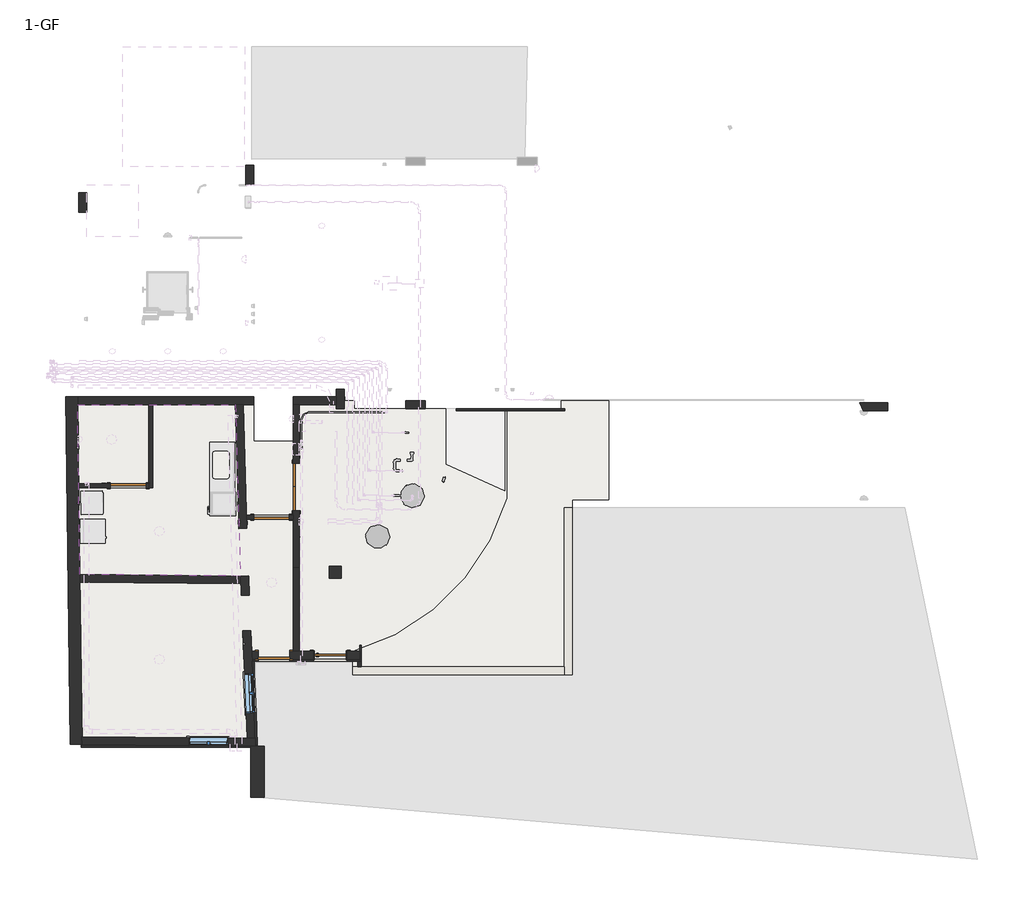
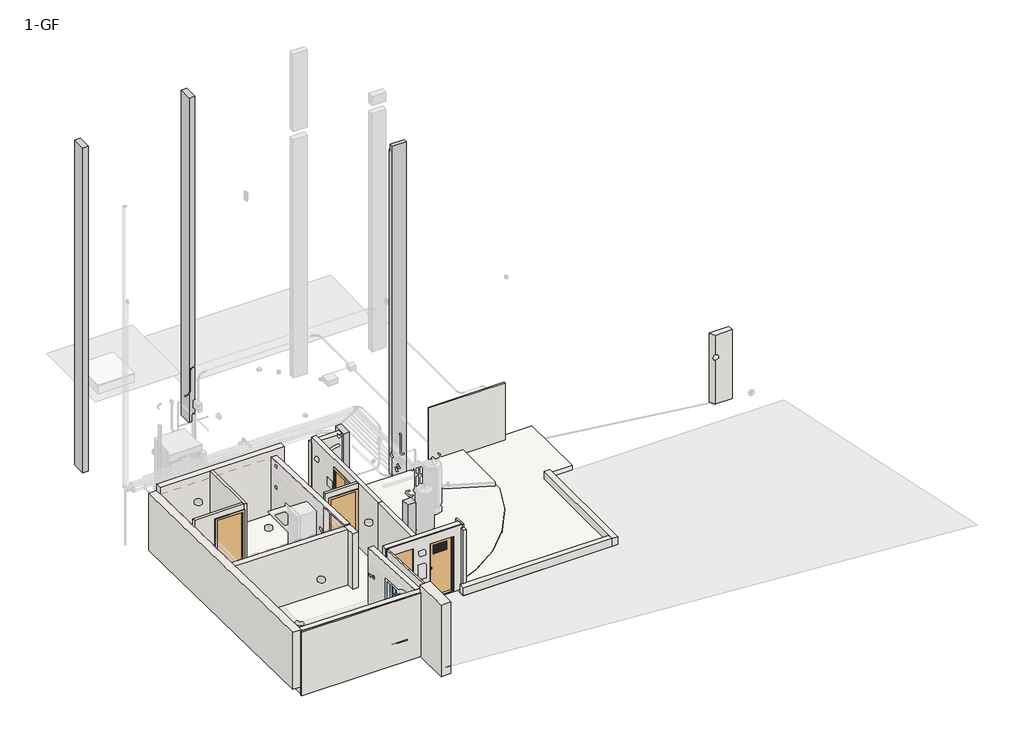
# One storey, part 1 of 5: 23 walls, 5 columns, 5 doors, 2 slabs, 2 windows, 1 covering.
"""IFC4 building model written with IfcOpenShell, lengths in millimetres."""

from ifc_helpers import new_model, si_unit, point, frame, frame_2d, origin, place, context, project, spatial, polyline, circle_curve, trimmed, segment, composite_curve, outline, extrude, faceted_brep, transform, mapped, element, save
from ifc_brep_helpers import plane_surface, revolved_surface, advanced_brep
from components import door_bb8a4608, m_door_double_flush_panel_120_x_2050mm_a4d84b97, m_single_flush_0800x_2134mm_61c991c8, m_single_flush_0900_x_2100mm_ea70ebeb, m_single_flush_0915_x_2100mm_0673a319, m_window_casement_double_1000_x_1000mm_fad33f65

model = new_model("IFC4")

# Units and contexts
model_context = context("Model", 3, world=origin())
ifc_project = project(units=[si_unit("LENGTHUNIT", "METRE", prefix="MILLI")], contexts=[model_context])

# Site, building, storey
site = spatial("IfcSite", under=ifc_project)
building = spatial("IfcBuilding", under=site)
storey = spatial("IfcBuildingStorey", under=building, Name="1-GF", Elevation=580.0)

# Columns
placement = place(None, origin())
element("IfcColumn", 1, ObjectType="M_Concrete-Rectangular-Column : 200 x500mm", at=placement, inside=storey, context=model_context, shape_type="Brep", body=[
    faceted_brep([(-5057.4765921, 8301.6620874, 580.0), (-4857.4765921, 8301.6620874, 580.0), (-4857.4765921, 7801.6620874, 580.0), (-5057.4765921, 7801.6620874, 580.0), (-5057.4765921, 8301.6620874, 12950.0), (-4857.4765921, 8301.6620874, 12950.0), (-4857.4765921, 7801.6620874, 12950.0), (-4857.4765921, 7914.4560655, 11421.0), (-4857.4765921, 7914.4560655, 11481.0), (-4857.4765921, 7974.4560655, 11481.0), (-4857.4765921, 7974.4560655, 11421.0), (-5057.4765921, 7801.6620874, 12950.0), (-4907.4765921, 7914.4560655, 11421.0), (-4907.4765921, 7974.4560655, 11421.0), (-4907.4765921, 7974.4560655, 11481.0), (-4907.4765921, 7914.4560655, 11481.0)], [[[0, 1, 2, 3]], [[1, 0, 4, 5]], [[2, 1, 5, 6], [7, 8, 9, 10]], [[3, 2, 6, 11]], [[0, 3, 11, 4]], [[5, 4, 11, 6]], [[12, 13, 14, 15]], [[12, 15, 8, 7]], [[15, 14, 9, 8]], [[14, 13, 10, 9]], [[13, 12, 7, 10]]]),
])
element("IfcColumn", 2, ObjectType="M_Concrete-Rectangular-Column : 200 x500mm", at=placement, inside=storey, context=model_context, shape_type="SweptSolid", body=[
    extrude(outline(polyline([(-827.4765921, 9001.6620874), (-627.4765921, 9001.6620874), (-627.4765921, 8501.6620874), (-827.4765921, 8501.6620874), (-827.4765921, 9001.6620874)])), frame((0.0, 0.0, 580.0), z_axis=(0.0, 0.0, 1.0), x_axis=(1.0, 0.0, 0.0)), (0.0, 0.0, 1.0), 12370.0),
])
element("IfcColumn", 3, ObjectType="M_Concrete-Rectangular-Column : 200 x500mm", at=placement, inside=storey, context=model_context, shape_type="SweptSolid", body=[
    extrude(outline(polyline([(1662.5234079, 2832.5523619), (1462.5234079, 2832.5523619), (1462.5234079, 3332.5523619), (1662.5234079, 3332.5523619), (1662.5234079, 2832.5523619)])), frame((0.0, 0.0, 580.0), z_axis=(0.0, 0.0, 1.0), x_axis=(1.0, 0.0, 0.0)), (0.0, 0.0, 1.0), 2220.0),
])
element("IfcColumn", 4, ObjectType="M_Concrete-Rectangular-Column : 200 x500mm", at=placement, inside=storey, context=model_context, shape_type="Brep", body=[
    faceted_brep([(3712.5234079, 3030.6486583, 580.0), (3712.5234079, 2830.6486583, 580.0), (3212.5234079, 2830.6486583, 580.0), (3212.5234079, 3030.6486583, 580.0), (3712.5234079, 3030.6486583, 3000.0), (3712.5234079, 3030.6486583, 6300.0), (3712.5234079, 3030.6486583, 6550.0), (3712.5234079, 3030.6486583, 9900.0), (3712.5234079, 3030.6486583, 12900.0), (3712.5234079, 2950.6486583, 12900.0), (3712.5234079, 2950.6486583, 13150.0), (3712.5234079, 2830.6486583, 13150.0), (3712.5234079, 2830.6486583, 9900.0), (3712.5234079, 2830.6486583, 6300.0), (3712.5234079, 2830.6486583, 3000.0), (3212.5234079, 2830.6486583, 13150.0), (3212.5234079, 2830.6486583, 9900.0), (3212.5234079, 2830.6486583, 9700.0), (3212.5234079, 2830.6486583, 6550.0), (3212.5234079, 2830.6486583, 6300.0), (3212.5234079, 2830.6486583, 3000.0), (3212.5234079, 2950.6486583, 13150.0), (3212.5234079, 2950.6486583, 12900.0), (3212.5234079, 3030.6486583, 12900.0), (3212.5234079, 3030.6486583, 9900.0), (3212.5234079, 3030.6486583, 9700.0), (3212.5234079, 3030.6486583, 6550.0), (3212.5234079, 3030.6486583, 6300.0), (3212.5234079, 3030.6486583, 3000.0)], [[[0, 1, 2, 3]], [[1, 0, 4, 5, 6, 7, 8, 9, 10, 11, 12, 13, 14]], [[2, 1, 14, 13, 12, 11, 15, 16, 17, 18, 19, 20]], [[3, 2, 20, 19, 18, 17, 16, 15, 21, 22, 23, 24, 25, 26, 27, 28]], [[0, 3, 28, 27, 26, 25, 24, 23, 8, 7, 6, 5, 4]], [[15, 11, 10, 21]], [[22, 9, 8, 23]], [[9, 22, 21, 10]]]),
])
element("IfcColumn", 5, ObjectType="M_Concrete-Rectangular-Column : 300 x300mm", at=placement, inside=storey, context=model_context, shape_type="SweptSolid", body=[
    extrude(outline(polyline([(1585.0321009, -1157.1632352), (1585.0321009, -1457.1632352), (1285.0321009, -1457.1632352), (1285.0321009, -1157.1632352), (1585.0321009, -1157.1632352)])), frame((0.0, 0.0, 580.0), z_axis=(0.0, 0.0, 1.0), x_axis=(1.0, 0.0, 0.0)), (0.0, 0.0, 1.0), 2170.0),
])

# Covering
element("IfcCovering", 6, ObjectType="Plain", at=placement, inside=storey, context=model_context, shape_type="SweptSolid", body=[
    extrude(outline(composite_curve([segment(trimmed(circle_curve(frame_2d((41.375057, 2336.428223)), 4099.6467383), [point((4111.1231499, 2830.6486583))], [point((522.5234079, -1734.8860173))], False, "CARTESIAN"), True, "CONTINUOUS"), segment(polyline([(522.5234079, -1734.8860173), (522.5234079, 2830.6486583), (4111.1231499, 2830.6486583)]), True, "CONTINUOUS")], self_intersect=False)), frame((0.0, 0.0, 2738.0), z_axis=(0.0, 0.0, 1.0), x_axis=(1.0, 0.0, 0.0)), (0.0, 0.0, 1.0), 12.0),
    extrude(outline(polyline([(372.5234079, 2934.4560655), (372.5234079, -3302.3012981), (-683.9755293, -3302.3012981), (-893.8038148, 2934.4560655), (372.5234079, 2934.4560655)])), frame((0.0, 0.0, 2738.0), z_axis=(0.0, 0.0, 1.0), x_axis=(1.0, 0.0, 0.0)), (0.0, 0.0, 1.0), 12.0),
    extrude(outline(polyline([(-1093.8848629, 2934.4560655), (-970.4407087, -1401.1976216), (-5031.3307526, -1359.7834217), (-5087.8606653, 2934.4560655), (-1093.8848629, 2934.4560655)])), frame((0.0, 0.0, 2738.0), z_axis=(0.0, 0.0, 1.0), x_axis=(1.0, 0.0, 0.0)), (0.0, 0.0, 1.0), 12.0),
    extrude(outline(polyline([(-952.0731896, -1601.3953395), (-796.2170605, -5503.422154), (-4977.2819981, -5465.5441537), (-5028.6974368, -1559.8206774), (-952.0731896, -1601.3953395)])), frame((0.0, 0.0, 2738.0), z_axis=(0.0, 0.0, 1.0), x_axis=(1.0, 0.0, 0.0)), (0.0, 0.0, 1.0), 12.0),
])

# Doors
door_shape = door_bb8a4608(model_context)
element("IfcDoor", 7, ObjectType="Door_Amweld_Integral_Louvers : Door_Amweld_Integral_Louvers", at=placement, inside=storey, context=model_context, shape_type="MappedRepresentation", body=[
    mapped(door_shape, transform((1306.2825594, -3402.3012981, 580.0), x_axis=(1.0, 0.0, 0.0), y_axis=(0.0, 1.0, 0.0), z_axis=(0.0, 0.0, 1.0))),
])
m_door_double_flush_panel_120_x_2050mm_shape = m_door_double_flush_panel_120_x_2050mm_a4d84b97(model_context)
element("IfcDoor", 8, ObjectType="M_Door-Double-Flush_Panel : 120 x 2050mm", at=placement, inside=storey, context=model_context, shape_type="MappedRepresentation", body=[
    mapped(m_door_double_flush_panel_120_x_2050mm_shape, transform((447.5234079, 854.4560655, 580.0), x_axis=(0.0, -1.0, 0.0), y_axis=(1.0, 0.0, 0.0), z_axis=(0.0, 0.0, 1.0))),
])
m_single_flush_0800x_2134mm_shape = m_single_flush_0800x_2134mm_61c991c8(model_context)
element("IfcDoor", 9, ObjectType="M_Single-Flush : 0800x 2134mm", at=placement, inside=storey, context=model_context, shape_type="MappedRepresentation", body=[
    mapped(m_single_flush_0800x_2134mm_shape, transform((-122.4765921, -3402.3012981, 580.0), x_axis=(-1.0, 0.0, 0.0), y_axis=(0.0, -1.0, 0.0), z_axis=(0.0, 0.0, 1.0))),
])
m_single_flush_0900_x_2100mm_shape = m_single_flush_0900_x_2100mm_ea70ebeb(model_context)
element("IfcDoor", 10, ObjectType="M_Single-Flush : 0900 x 2100mm", at=placement, inside=storey, context=model_context, shape_type="MappedRepresentation", body=[
    mapped(m_single_flush_0900_x_2100mm_shape, transform((-177.4765921, 89.4560655, 630.0), x_axis=(1.0, 0.0, 0.0), y_axis=(0.0, 1.0, 0.0), z_axis=(0.0, 0.0, 1.0))),
])
m_single_flush_0915_x_2100mm_shape = m_single_flush_0915_x_2100mm_0673a319(model_context)
element("IfcDoor", 11, ObjectType="M_Single-Flush : 0915 x 2100mm", at=placement, inside=storey, context=model_context, shape_type="MappedRepresentation", body=[
    mapped(m_single_flush_0915_x_2100mm_shape, transform((-3804.9765921, 884.4560655, 630.0), x_axis=(1.0, 0.0, 0.0), y_axis=(0.0, 1.0, 0.0), z_axis=(0.0, 0.0, 1.0))),
])

# Slabs
element("IfcSlab", 12, ObjectType="300mm Foundation Slab 2", at=placement, inside=storey, context=model_context, shape_type="SweptSolid", body=[
    extrude(outline(composite_curve([segment(polyline([(-4974.7110576, -5660.5844528), (-5105.9369299, 3134.4560655), (-627.4765921, 3134.4560655), (-627.4765921, 2014.4560655), (372.5234079, 2014.4560655), (372.5234079, 3134.4560655), (1674.9666632, 3134.4560655), (1674.9666632, 3030.6486583), (1912.5234079, 3030.6486583), (1912.5234079, 2830.6486583), (5776.3853705, 2830.6486583), (5776.3853705, 570.3375583)]), True, "CONTINUOUS"), segment(trimmed(circle_curve(frame_2d((269.5345862, 2206.919128)), 5744.8938019), [point((5776.3853705, 570.3375583))], [point((1876.3853705, -3308.680146))], False, "CARTESIAN"), True, "CONTINUOUS"), segment(polyline([(1876.3853705, -3308.680146), (1876.3853705, -3502.0661424), (-623.6146295, -3502.0661424), (-623.6146295, -5703.9617044), (-4974.7110576, -5660.5844528)]), True, "CONTINUOUS")], self_intersect=False)), frame((0.0, 0.0, 280.0), z_axis=(0.0, 0.0, 1.0), x_axis=(1.0, 0.0, 0.0)), (0.0, 0.0, 1.0), 300.0),
])
element("IfcSlab", 13, ObjectType="300mm Foundation Slab 2", at=placement, inside=storey, context=model_context, shape_type="AdvancedBrep", body=[
    advanced_brep(
    [(7426.3853705, 527.6987644, 280.0), (7426.3853705, -3902.0661424, 280.0), (1876.3853705, -3902.0661424, 280.0), (1876.3853705, -3502.0661424, 280.0), (1876.3853705, -3308.680146, 280.0), (5776.3853705, 570.3375583, 280.0), (5776.3853705, 2830.6486583, 280.0), (7147.8774899, 2830.6486583, 280.0), (7147.8774899, 3030.6486583, 280.0), (8347.87749, 3030.6486583, 280.0), (8347.87749, 527.6987644, 280.0), (7426.3853705, -3902.0661424, 580.0), (7426.3853705, 527.6987644, 580.0), (8347.87749, 527.6987644, 580.0), (8347.87749, 3030.6486583, 580.0), (7147.8774899, 3030.6486583, 580.0), (7147.8774899, 2830.6486583, 580.0), (5776.3853705, 2830.6486583, 580.0), (5776.3853705, 570.3375583, 580.0), (1876.3853705, -3308.680146, 580.0), (1876.3853705, -3502.0661424, 580.0), (1876.3853705, -3902.0661424, 580.0)],
    [
        (0, 1),
        (1, 2),
        (2, 3),
        (3, 4),
        (4, 5, circle_curve(frame((269.5345862, 2206.919128, 280.0), z_axis=(0.0, 0.0, 1.0), x_axis=(1.0, 0.0, 0.0)), 5744.8938019)),
        (5, 6),
        (6, 7),
        (7, 8),
        (8, 9),
        (9, 10),
        (10, 0),
        (11, 12),
        (12, 13),
        (13, 14),
        (14, 15),
        (15, 16),
        (16, 17),
        (17, 18),
        (18, 19, circle_curve(frame((269.5345862, 2206.919128, 580.0), z_axis=(0.0, 0.0, -1.0), x_axis=(1.0, 0.0, 0.0)), 5744.8938019)),
        (19, 20),
        (20, 21),
        (21, 11),
        (0, 12),
        (11, 1),
        (8, 15),
        (14, 9),
        (13, 10),
        (21, 2),
        (19, 4),
        (16, 7),
        (6, 17),
        (5, 18),
    ],
    [
        plane_surface(frame((1876.3853705, -3902.0661424, 280.0), z_axis=(0.0, 0.0, -1.0), x_axis=(-1.0, 0.0, 0.0))),
        plane_surface(frame((1876.3853705, -3902.0661424, 580.0), z_axis=(0.0, 0.0, 1.0), x_axis=(1.0, 0.0, 0.0))),
        plane_surface(frame((7426.3853705, 527.6987644, 280.0), z_axis=(1.0, 0.0, 0.0), x_axis=(0.0, 0.0, 1.0))),
        plane_surface(frame((7147.8774899, 3030.6486583, 280.0), z_axis=(0.0, 1.0, 0.0), x_axis=(0.0, 0.0, 1.0))),
        plane_surface(frame((8347.87749, 3030.6486583, 280.0), z_axis=(1.0, 0.0, 0.0), x_axis=(0.0, 0.0, 1.0))),
        plane_surface(frame((8347.87749, 527.6987644, 280.0), z_axis=(0.0, -1.0, 0.0), x_axis=(0.0, 0.0, 1.0))),
        plane_surface(frame((7426.3853705, -3902.0661424, 280.0), z_axis=(0.0, -1.0, 0.0), x_axis=(0.0, 0.0, 1.0))),
        plane_surface(frame((1876.3853705, -3902.0661424, 280.0), z_axis=(-1.0, 0.0, 0.0), x_axis=(0.0, 0.0, 1.0))),
        plane_surface(frame((5726.3853705, 2830.6486583, 280.0), z_axis=(0.0, 1.0, 0.0), x_axis=(0.0, 0.0, 1.0))),
        plane_surface(frame((7147.8774899, 2830.6486583, 280.0), z_axis=(-1.0, 0.0, 0.0), x_axis=(0.0, 0.0, 1.0))),
        plane_surface(frame((5776.3853705, 2830.6486583, 280.0), z_axis=(-1.0, 0.0, 0.0), x_axis=(0.0, 0.0, 1.0))),
        revolved_surface(polyline([(6014.4283881, 2206.919128, 280.0), (6014.4283881, 2206.919128, 580.0)]), (269.5345862, 2206.919128, 580.0), (0.0, 0.0, -1.0)),
    ],
    [
        (0, [[1, 2, 3, 4, 5, 6, 7, 8, 9, 10, 11]]),
        (1, [[12, 13, 14, 15, 16, 17, 18, 19, 20, 21, 22]]),
        (2, [[-1, 23, -12, 24]]),
        (3, [[-9, 25, -15, 26]]),
        (4, [[-10, -26, -14, 27]]),
        (5, [[-11, -27, -13, -23]]),
        (6, [[-2, -24, -22, 28]]),
        (7, [[-28, -21, -20, 29, -4, -3]]),
        (8, [[30, -7, 31, -17]]),
        (9, [[-8, -30, -16, -25]]),
        (10, [[32, -18, -31, -6]]),
        (11, [[-32, -5, -29, -19]]),
    ],
),
])

# Walls
element("IfcWall", 14, ObjectType="Generic - 200mm", at=placement, inside=storey, context=model_context, shape_type="Brep", body=[
    faceted_brep([(7226.3853705, 327.6987644, 580.0), (7226.3853705, -3702.0661424, 580.0), (7226.3853705, -3902.0661424, 580.0), (7226.3853705, -3902.0661424, 880.0), (7226.3853705, -3702.0661424, 880.0), (7226.3853705, 327.6987644, 880.0), (7426.3853705, 327.6987644, 580.0), (7426.3853705, 327.6987644, 880.0), (7426.3853705, -3902.0661424, 880.0), (7426.3853705, -3902.0661424, 580.0)], [[[0, 1, 2, 3, 4, 5]], [[6, 7, 8, 9]], [[2, 1, 0, 6, 9]], [[5, 4, 3, 8, 7]], [[0, 5, 7, 6]], [[3, 2, 9, 8]]]),
])
element("IfcWall", 15, ObjectType="Generic - 200mm", at=placement, inside=storey, context=model_context, shape_type="Brep", body=[
    faceted_brep([(-4974.6487506, -5665.5762165, 580.0), (-2931.3480508, -5684.0873245, 580.0), (-587.99344, -5705.3167452, 580.0), (-587.99344, -5705.3167452, 2700.0), (-2931.3480508, -5684.0873245, 2700.0), (-4974.6487506, -5665.5762165, 2700.0), (-2277.0125923, -5690.0152206, 2110.0), (-1277.0536263, -5699.0742633, 2110.0), (-1277.0536263, -5699.0742633, 1110.0), (-2277.0125923, -5690.0152206, 1110.0), (-4977.2819981, -5465.5441537, 580.0), (-4977.2819981, -5465.5441537, 2700.0), (-796.2170605, -5503.422154, 2700.0), (-595.9851301, -5505.236138, 2700.0), (-595.9851301, -5505.236138, 580.0), (-796.2170605, -5503.422154, 580.0), (-2275.2007837, -5490.0234274, 2110.0), (-2275.2007837, -5490.0234274, 1110.0), (-1275.2418177, -5499.0824701, 1110.0), (-1275.2418177, -5499.0824701, 2110.0), (-588.841393, -5684.0873245, 580.0), (-588.841393, -5684.0873245, 2700.0), (-2276.958889, -5684.0873245, 2110.0), (-2276.958889, -5684.0873245, 1110.0), (-1276.9178534, -5684.0873245, 1110.0), (-1276.9178534, -5684.0873245, 2110.0)], [[[0, 1, 2, 3, 4, 5], [6, 7, 8, 9]], [[10, 11, 12, 13, 14, 15], [16, 17, 18, 19]], [[2, 1, 0, 10, 15, 14, 20]], [[5, 4, 3, 21, 13, 12, 11]], [[0, 5, 11, 10]], [[3, 2, 20, 14, 13, 21]], [[17, 16, 22, 6, 9, 23]], [[18, 17, 23, 9, 8, 24]], [[19, 18, 24, 8, 7, 25]], [[16, 19, 25, 7, 6, 22]]]),
])
element("IfcWall", 16, ObjectType="Generic - 200mm", at=placement, inside=storey, context=model_context, shape_type="Brep", body=[
    faceted_brep([(-683.9755293, -3302.3012981, 3000.0), (372.5234079, -3302.3012981, 3000.0), (522.5234079, -3302.3012981, 3000.0), (2046.2825594, -3302.3012981, 3000.0), (2046.2825594, -3302.3012981, 580.0), (1731.6825594, -3302.3012981, 580.0), (1731.6825594, -3302.3012981, 2680.0), (880.8825594, -3302.3012981, 2680.0), (880.8825594, -3302.3012981, 580.0), (522.5234079, -3302.3012981, 580.0), (372.5234079, -3302.3012981, 580.0), (277.5234079, -3302.3012981, 580.0), (277.5234079, -3302.3012981, 2714.0), (-522.4765921, -3302.3012981, 2714.0), (-522.4765921, -3302.3012981, 580.0), (-683.9755293, -3302.3012981, 580.0), (2046.2825594, -3502.3012981, 3000.0), (-675.9870588, -3502.3012981, 3000.0), (-675.9870588, -3502.3012981, 580.0), (-522.4765921, -3502.3012981, 580.0), (-522.4765921, -3502.3012981, 2714.0), (277.5234079, -3502.3012981, 2714.0), (277.5234079, -3502.3012981, 580.0), (880.8825594, -3502.3012981, 580.0), (880.8825594, -3502.3012981, 2680.0), (1731.6825594, -3502.3012981, 2680.0), (1731.6825594, -3502.3012981, 580.0), (2046.2825594, -3502.3012981, 580.0), (2046.2825594, -3502.0661424, 580.0), (-675.9964515, -3502.0661424, 580.0), (-675.9964515, -3502.0661424, 3000.0), (2046.2825594, -3502.0661424, 3000.0)], [[[0, 1, 2, 3, 4, 5, 6, 7, 8, 9, 10, 11, 12, 13, 14, 15]], [[16, 17, 18, 19, 20, 21, 22, 23, 24, 25, 26, 27]], [[22, 11, 10, 9, 8, 23]], [[4, 28, 27, 26, 5]], [[18, 29, 15, 14, 19]], [[3, 2, 1, 0, 30, 17, 16, 31]], [[0, 15, 29, 18, 17, 30]], [[4, 3, 31, 16, 27, 28]], [[20, 19, 14, 13]], [[21, 20, 13, 12]], [[22, 21, 12, 11]], [[6, 25, 24, 7]], [[25, 6, 5, 26]], [[7, 24, 23, 8]]]),
])
element("IfcWall", 17, ObjectType="Generic - 200mm", at=placement, inside=storey, context=model_context, shape_type="Brep", body=[
    faceted_brep([(7226.3853705, -3702.0661424, 580.0), (2096.2825594, -3702.0661424, 580.0), (1996.2825594, -3702.0661424, 580.0), (1876.3853705, -3702.0661424, 580.0), (1876.3853705, -3702.0661424, 880.0), (7226.3853705, -3702.0661424, 880.0), (7226.3853705, -3902.0661424, 580.0), (7226.3853705, -3902.0661424, 880.0), (1876.3853705, -3902.0661424, 880.0), (1876.3853705, -3902.0661424, 580.0)], [[[0, 1, 2, 3, 4, 5]], [[6, 7, 8, 9]], [[3, 2, 1, 0, 6, 9]], [[4, 3, 9, 8]], [[5, 4, 8, 7]], [[0, 5, 7, 6]]]),
])
element("IfcWall", 18, ObjectType="Generic - 200mm", at=placement, inside=storey, context=model_context, shape_type="Brep", body=[
    faceted_brep([(14795.6032514, 2780.6486583, -700.0), (15410.8774901, 2780.6486583, -700.0), (15410.8774901, 2780.6486583, 1913.3333333), (14795.6032514, 2780.6486583, 1913.3333333), (14701.0157671, 2980.6486583, -700.0), (14701.0157671, 2980.6486583, -593.3333333), (14701.0157671, 2980.6486583, 1913.3333333), (14922.2549865, 2980.6486583, 1913.3333333), (15410.8774901, 2980.6486583, 1913.3333333), (15410.8774901, 2980.6486583, -700.0)], [[[0, 1, 2, 3]], [[4, 5, 6, 7, 8, 9]], [[1, 0, 4, 9]], [[2, 1, 9, 8]], [[3, 2, 8, 7, 6]], [[0, 3, 6, 5, 4]]]),
])
element("IfcWall", 19, ObjectType="Generic - 200mm - Filled", at=placement, inside=storey, context=model_context, shape_type="Brep", body=[
    faceted_brep([(-759.8242884, -1403.3455524, 580.0), (-759.8242884, -1403.3455524, 2700.0), (-740.6852342, -1882.5124803, 2700.0), (-740.6852342, -1882.5124803, 580.0), (-940.5258857, -1890.494586, 580.0), (-940.5258857, -1890.494586, 2700.0), (-952.0731896, -1601.3953395, 2700.0), (-960.0309549, -1402.1640765, 2700.0), (-960.0309549, -1402.1640765, 580.0), (-952.0731896, -1601.3953395, 580.0), (-937.7840157, -1401.5306646, 580.0), (-770.301547, -1403.2387021, 580.0), (-937.7840157, -1401.5306646, 2700.0)], [[[0, 1, 2, 3]], [[4, 5, 6, 7, 8, 9]], [[0, 3, 4, 9, 8, 10, 11]], [[2, 1, 12, 7, 6, 5]], [[1, 0, 11, 10, 12]], [[3, 2, 5, 4]], [[8, 7, 12, 10]]]),
    faceted_brep([(-595.9851301, -5505.236138, 2700.0), (-595.9851301, -5505.236138, 580.0), (-673.9993339, -3552.0661424, 580.0), (-675.9870588, -3502.3012981, 580.0), (-683.9755293, -3302.3012981, 580.0), (-704.7657587, -2781.795412, 580.0), (-704.7657587, -2781.795412, 2700.0), (-673.9993339, -3552.0661424, 2700.0), (-621.552307, -4865.1342038, 1110.1241971), (-621.552307, -4865.1342038, 2110.1241971), (-661.4628354, -3865.9309463, 2110.1241971), (-661.4628354, -3865.9309463, 1110.1241971), (-796.2170605, -5503.422154, 580.0), (-796.2170605, -5503.422154, 2700.0), (-904.6064102, -2789.7775177, 2700.0), (-904.6064102, -2789.7775177, 580.0), (-821.3929585, -4873.1163095, 2110.1241971), (-821.3929585, -4873.1163095, 1110.1241971), (-861.3034869, -3873.913052, 1110.1241971), (-861.3034869, -3873.913052, 2110.1241971), (-892.6082571, -3090.1642596, 1750.0), (-892.6082571, -3090.1642596, 1810.0), (-890.2136254, -3150.116455, 1810.0), (-890.2136254, -3150.116455, 1750.0), (-901.0150155, -2879.6919695, 1700.0), (-901.0150155, -2879.6919695, 1760.0), (-898.6203838, -2939.644165, 1760.0), (-898.6203838, -2939.644165, 1700.0), (-842.6480943, -3088.1687331, 1750.0), (-840.2534626, -3148.1209286, 1750.0), (-840.2534626, -3148.1209286, 1810.0), (-842.6480943, -3088.1687331, 1810.0), (-851.0548526, -2877.6964431, 1700.0), (-848.6602209, -2937.6486385, 1700.0), (-848.6602209, -2937.6486385, 1760.0), (-851.0548526, -2877.6964431, 1760.0)], [[[0, 1, 2, 3, 4, 5, 6, 7], [8, 9, 10, 11]], [[12, 13, 14, 15], [16, 17, 18, 19], [20, 21, 22, 23], [24, 25, 26, 27]], [[1, 12, 15, 5, 4, 3, 2]], [[13, 0, 7, 6, 14]], [[0, 13, 12, 1]], [[6, 5, 15, 14]], [[17, 16, 9, 8]], [[18, 17, 8, 11]], [[19, 18, 11, 10]], [[16, 19, 10, 9]], [[28, 29, 30, 31]], [[28, 31, 21, 20]], [[31, 30, 22, 21]], [[30, 29, 23, 22]], [[29, 28, 20, 23]], [[32, 33, 34, 35]], [[32, 35, 25, 24]], [[35, 34, 26, 25]], [[34, 33, 27, 26]], [[33, 32, 24, 27]]]),
])
element("IfcWall", 20, ObjectType="Generic - 200mm - Filled", at=placement, inside=storey, context=model_context, shape_type="SweptSolid", body=[
    extrude(outline(polyline([(-952.0731896, -1601.3953395), (-5028.6974368, -1559.8206774), (-5031.3307526, -1359.7834217), (-970.4407087, -1401.1976216), (-970.4047824, -1402.4594387), (-960.0309549, -1402.1640765), (-952.0731896, -1601.3953395)])), frame((0.0, 0.0, 580.0), z_axis=(0.0, 0.0, 1.0), x_axis=(1.0, 0.0, 0.0)), (0.0, 0.0, 1.0), 2120.0),
])
element("IfcWall", 21, ObjectType="Generic - 200mm - Filled", at=placement, inside=storey, context=model_context, shape_type="Brep", body=[
    faceted_brep([(-893.8038146, 2934.4560655, 2750.0), (-770.301547, -1403.2387021, 2750.0), (-770.301547, -1403.2387021, 580.0), (-770.4857979, -1396.767372, 580.0), (-770.4857979, -1396.767372, 2714.0), (-804.6381981, -197.2534648, 2714.0), (-804.6381981, -197.2534648, 580.0), (-811.3777603, 39.4560655, 580.0), (-814.224947, 139.4560655, 580.0), (-893.8038146, 2934.4560655, 580.0), (-807.7988391, -86.244198, 1700.0), (-807.7988391, -86.244198, 1760.0), (-809.5064591, -26.2685026, 1760.0), (-809.5064591, -26.2685026, 1700.0), (-970.4407087, -1401.1976216, 2750.0), (-1093.8848629, 2934.4560655, 2750.0), (-1093.8848629, 2934.4560655, 580.0), (-1004.5571826, -202.9455315, 580.0), (-1004.5571826, -202.9455315, 2714.0), (-970.4407087, -1401.1976216, 2714.0), (-1086.2247349, 2665.4140627, 1750.0), (-1086.2247349, 2665.4140627, 1810.0), (-1084.5171148, 2605.4383673, 1810.0), (-1084.5171148, 2605.4383673, 1750.0), (-1010.2927695, -1.4980125, 1750.0), (-1010.2927695, -1.4980125, 1810.0), (-1008.5851495, -61.4737078, 1810.0), (-1008.5851495, -61.4737078, 1760.0), (-1007.5872955, -96.5207247, 1760.0), (-1007.5872955, -96.5207247, 1700.0), (-1009.2949155, -36.5450294, 1700.0), (-1009.2949155, -36.5450294, 1750.0), (-1086.2247349, 2665.4140627, 2550.0), (-1086.2247349, 2665.4140627, 2610.0), (-1084.5171148, 2605.4383673, 2610.0), (-1084.5171148, 2605.4383673, 2550.0), (-1023.6615323, 468.0448838, 1000.0), (-1023.6615323, 468.0448838, 1060.0), (-1021.9539123, 408.0691884, 1060.0), (-1021.9539123, 408.0691884, 1000.0), (-937.7840157, -1401.5306646, 580.0), (-937.7840157, -1401.5306646, 2714.0), (-937.7840157, -1401.5306646, 2700.0), (-1036.2449887, 2666.8370794, 1750.0), (-1034.5373687, 2606.861384, 1750.0), (-1034.5373687, 2606.861384, 1810.0), (-1036.2449887, 2666.8370794, 1810.0), (-958.6054034, -60.0506912, 1810.0), (-960.3130234, -0.0749958, 1810.0), (-960.3130234, -0.0749958, 1750.0), (-959.3151694, -35.1220127, 1750.0), (-959.3151694, -35.1220127, 1700.0), (-957.6075494, -95.0977081, 1700.0), (-957.6075494, -95.0977081, 1760.0), (-958.6054034, -60.0506912, 1760.0), (-1036.2449887, 2666.8370794, 2550.0), (-1034.5373687, 2606.861384, 2550.0), (-1034.5373687, 2606.861384, 2610.0), (-1036.2449887, 2666.8370794, 2610.0), (-973.6817862, 469.4679004, 1000.0), (-971.9741662, 409.4922051, 1000.0), (-971.9741662, 409.4922051, 1060.0), (-973.6817862, 469.4679004, 1060.0), (-857.7785853, -87.6672146, 1700.0), (-859.4862053, -27.6915193, 1700.0), (-859.4862053, -27.6915193, 1760.0), (-857.7785853, -87.6672146, 1760.0)], [[[0, 1, 2, 3, 4, 5, 6, 7, 8, 9], [10, 11, 12, 13]], [[14, 15, 16, 17, 18, 19], [20, 21, 22, 23], [24, 25, 26, 27, 28, 29, 30, 31], [32, 33, 34, 35], [36, 37, 38, 39]], [[3, 2, 40]], [[9, 8, 7, 6, 17, 16]], [[1, 0, 15, 14]], [[2, 1, 14, 19, 41, 42, 40]], [[0, 9, 16, 15]], [[5, 18, 17, 6]], [[18, 5, 4, 41, 19]], [[41, 4, 3, 40, 42]], [[43, 44, 45, 46]], [[43, 46, 21, 20]], [[46, 45, 22, 21]], [[45, 44, 23, 22]], [[44, 43, 20, 23]], [[47, 48, 49, 50, 51, 52, 53, 54]], [[49, 48, 25, 24]], [[48, 47, 26, 25]], [[26, 47, 54, 27]], [[49, 24, 31, 50]], [[55, 56, 57, 58]], [[55, 58, 33, 32]], [[58, 57, 34, 33]], [[57, 56, 35, 34]], [[56, 55, 32, 35]], [[59, 60, 61, 62]], [[59, 62, 37, 36]], [[62, 61, 38, 37]], [[61, 60, 39, 38]], [[60, 59, 36, 39]], [[30, 51, 50, 31]], [[53, 28, 27, 54]], [[53, 52, 29, 28]], [[52, 51, 30, 29]], [[63, 64, 65, 66]], [[63, 66, 11, 10]], [[66, 65, 12, 11]], [[65, 64, 13, 12]], [[64, 63, 10, 13]]]),
])
element("IfcWall", 22, ObjectType="Generic - 200mm - Filled", at=placement, inside=storey, context=model_context, shape_type="Brep", body=[
    faceted_brep([(-5087.8606653, 2934.4560655, 580.0), (-3287.8606653, 2934.4560655, 580.0), (-3187.8606653, 2934.4560655, 580.0), (-1093.8848629, 2934.4560655, 580.0), (-893.8038146, 2934.4560655, 580.0), (-627.4765921, 2934.4560655, 580.0), (-627.4765921, 2934.4560655, 3000.0), (-3187.8606653, 2934.4560655, 3000.0), (-3287.8606653, 2934.4560655, 3000.0), (-5087.8606653, 2934.4560655, 3000.0), (-5090.4934906, 3134.4560655, 580.0), (-5090.4934906, 3134.4560655, 2750.0), (-5090.4934906, 3134.4560655, 3000.0), (-5057.4765921, 3134.4560655, 3000.0), (-4857.4765921, 3134.4560655, 3000.0), (-627.4765921, 3134.4560655, 3000.0), (-627.4765921, 3134.4560655, 2750.0), (-627.4765921, 3134.4560655, 580.0)], [[[0, 1, 2, 3, 4, 5, 6, 7, 8, 9]], [[10, 11, 12, 13, 14, 15, 16, 17]], [[5, 4, 3, 2, 1, 0, 10, 17]], [[9, 8, 7, 6, 15, 14, 13, 12]], [[0, 9, 12, 11, 10]], [[6, 5, 17, 16, 15]]]),
])
element("IfcWall", 23, ObjectType="Generic - 200mm - Filled", at=placement, inside=storey, context=model_context, shape_type="Brep", body=[
    faceted_brep([(372.5234079, 2934.4560655, 580.0), (522.5234079, 2934.4560655, 580.0), (1462.5234079, 2934.4560655, 580.0), (1462.5234079, 2934.4560655, 2750.0), (372.5234079, 2934.4560655, 2750.0), (372.5234079, 3134.4560655, 580.0), (372.5234079, 3134.4560655, 2750.0), (1462.5234079, 3134.4560655, 2750.0), (1462.5234079, 3134.4560655, 580.0)], [[[0, 1, 2, 3, 4]], [[5, 6, 7, 8]], [[2, 1, 0, 5, 8]], [[3, 2, 8, 7]], [[4, 3, 7, 6]], [[0, 4, 6, 5]]]),
])
element("IfcWall", 24, ObjectType="Generic - 300mm", at=placement, inside=storey, context=model_context, shape_type="Brep", body=[
    faceted_brep([(-5390.5194836, 3134.4560655, 580.0), (-5389.3079857, 3042.4258078, 580.0), (-5274.7105288, -5662.8578325, 580.0), (-5274.7105288, -5662.8578325, 2750.0), (-5389.3079857, 3042.4258078, 2750.0), (-5390.5194836, 3134.4560655, 2750.0), (-4974.6487506, -5665.5762165, 580.0), (-4977.2819981, -5465.5441537, 580.0), (-5028.6974368, -1559.8206774, 580.0), (-5031.3307526, -1359.7834217, 580.0), (-5060.2159992, 834.4560655, 580.0), (-5061.5324119, 934.4560655, 580.0), (-5087.8606653, 2934.4560655, 580.0), (-5089.2819927, 3042.4258078, 580.0), (-5090.4934906, 3134.4560655, 580.0), (-5090.4934906, 3134.4560655, 2750.0), (-5089.2819927, 3042.4258078, 2750.0), (-4974.6487506, -5665.5762165, 2750.0), (-4974.6487506, -5665.5762165, 2700.0), (-5073.1943095, 1820.3407046, 1750.0), (-5073.1943095, 1820.3407046, 1810.0), (-5073.9840887, 1880.3355064, 1810.0), (-5073.9840887, 1880.3355064, 1750.0), (-5054.6523656, 411.8200876, 1750.0), (-5054.6523656, 411.8200876, 1810.0), (-5055.4421448, 471.8148894, 1810.0), (-5055.4421448, 471.8148894, 1750.0), (-5123.1899777, 1819.6825552, 1750.0), (-5123.9797569, 1879.6773571, 1750.0), (-5123.9797569, 1879.6773571, 1810.0), (-5123.1899777, 1819.6825552, 1810.0), (-5104.6480338, 411.1619382, 1750.0), (-5105.437813, 471.1567401, 1750.0), (-5105.437813, 471.1567401, 1810.0), (-5104.6480338, 411.1619382, 1810.0)], [[[0, 1, 2, 3, 4, 5]], [[6, 7, 8, 9, 10, 11, 12, 13, 14, 15, 16, 17, 18], [19, 20, 21, 22], [23, 24, 25, 26]], [[2, 1, 0, 14, 13, 12, 11, 10, 9, 8, 7, 6]], [[5, 4, 3, 17, 16, 15]], [[3, 2, 6, 18, 17]], [[0, 5, 15, 14]], [[27, 28, 29, 30]], [[27, 30, 20, 19]], [[30, 29, 21, 20]], [[29, 28, 22, 21]], [[28, 27, 19, 22]], [[31, 32, 33, 34]], [[31, 34, 24, 23]], [[34, 33, 25, 24]], [[33, 32, 26, 25]], [[32, 31, 23, 26]]]),
])
element("IfcWall", 25, ObjectType="Generic -10", at=placement, inside=storey, context=model_context, shape_type="Brep", body=[
    faceted_brep([(-3287.8606653, 2934.4560655, 580.0), (-3287.8606653, 934.4560655, 580.0), (-3287.8606653, 834.4560655, 580.0), (-3287.8606653, 834.4560655, 3000.0), (-3287.8606653, 934.4560655, 3000.0), (-3287.8606653, 2934.4560655, 3000.0), (-3187.8606653, 2934.4560655, 580.0), (-3187.8606653, 2934.4560655, 3000.0), (-3187.8606653, 834.4560655, 3000.0), (-3187.8606653, 834.4560655, 580.0)], [[[0, 1, 2, 3, 4, 5]], [[6, 7, 8, 9]], [[2, 1, 0, 6, 9]], [[5, 4, 3, 8, 7]], [[0, 5, 7, 6]], [[3, 2, 9, 8]]]),
])
element("IfcWall", 26, ObjectType="Generic -10", at=placement, inside=storey, context=model_context, shape_type="Brep", body=[
    faceted_brep([(-3287.8606653, 934.4560655, 580.0), (-5061.5324119, 934.4560655, 580.0), (-5061.5324119, 934.4560655, 3000.0), (-3287.8606653, 934.4560655, 3000.0), (-4262.4765921, 934.4560655, 630.0), (-3347.4765921, 934.4560655, 630.0), (-3347.4765921, 934.4560655, 2730.0), (-4262.4765921, 934.4560655, 2730.0), (-4827.4765921, 934.4560655, 2350.0), (-4827.4765921, 934.4560655, 2410.0), (-4887.4765921, 934.4560655, 2410.0), (-4887.4765921, 934.4560655, 2350.0), (-4397.8606653, 934.4560655, 1700.0), (-4397.8606653, 934.4560655, 1760.0), (-4457.8606653, 934.4560655, 1760.0), (-4457.8606653, 934.4560655, 1700.0), (-5060.2159992, 834.4560655, 580.0), (-3287.8606653, 834.4560655, 580.0), (-3287.8606653, 834.4560655, 3000.0), (-5060.2159992, 834.4560655, 3000.0), (-3347.4765921, 834.4560655, 630.0), (-4262.4765921, 834.4560655, 630.0), (-4262.4765921, 834.4560655, 2730.0), (-3347.4765921, 834.4560655, 2730.0), (-4827.4765921, 884.4560655, 2350.0), (-4887.4765921, 884.4560655, 2350.0), (-4887.4765921, 884.4560655, 2410.0), (-4827.4765921, 884.4560655, 2410.0), (-4397.8606653, 884.4560655, 1700.0), (-4457.8606653, 884.4560655, 1700.0), (-4457.8606653, 884.4560655, 1760.0), (-4397.8606653, 884.4560655, 1760.0)], [[[0, 1, 2, 3], [4, 5, 6, 7], [8, 9, 10, 11], [12, 13, 14, 15]], [[16, 17, 18, 19], [20, 21, 22, 23]], [[1, 0, 17, 16]], [[3, 2, 19, 18]], [[0, 3, 18, 17]], [[2, 1, 16, 19]], [[4, 21, 20, 5]], [[5, 20, 23, 6]], [[21, 4, 7, 22]], [[22, 7, 6, 23]], [[24, 25, 26, 27]], [[24, 27, 9, 8]], [[27, 26, 10, 9]], [[26, 25, 11, 10]], [[25, 24, 8, 11]], [[28, 29, 30, 31]], [[28, 31, 13, 12]], [[31, 30, 14, 13]], [[30, 29, 15, 14]], [[29, 28, 12, 15]]]),
])
element("IfcWall", 27, ObjectType="Generic -10", at=placement, inside=storey, context=model_context, shape_type="Brep", body=[
    faceted_brep([(-811.3777603, 39.4560655, 580.0), (372.5234079, 39.4560655, 580.0), (372.5234079, 39.4560655, 3000.0), (-811.3777603, 39.4560655, 3000.0), (272.5234079, 39.4560655, 630.0), (-627.4765921, 39.4560655, 630.0), (-627.4765921, 39.4560655, 2730.0), (272.5234079, 39.4560655, 2730.0), (372.5234079, 139.4560655, 580.0), (-814.224947, 139.4560655, 580.0), (-814.224947, 139.4560655, 3000.0), (372.5234079, 139.4560655, 3000.0), (-627.4765921, 139.4560655, 630.0), (272.5234079, 139.4560655, 630.0), (272.5234079, 139.4560655, 2730.0), (-627.4765921, 139.4560655, 2730.0)], [[[0, 1, 2, 3], [4, 5, 6, 7]], [[8, 9, 10, 11], [12, 13, 14, 15]], [[1, 0, 9, 8]], [[3, 2, 11, 10]], [[0, 3, 10, 9]], [[2, 1, 8, 11]], [[12, 5, 4, 13]], [[13, 4, 7, 14]], [[5, 12, 15, 6]], [[6, 15, 14, 7]]]),
])
element("IfcWall", 28, ObjectType="Generic -10", at=placement, inside=storey, context=model_context, shape_type="Brep", body=[
    faceted_brep([(1996.2825594, -3552.0661424, 580.0), (1996.2825594, -3702.0661424, 580.0), (1996.2825594, -3702.0661424, 2900.0), (1996.2825594, -3552.0661424, 2900.0), (2096.2825594, -3552.0661424, 580.0), (2096.2825594, -3552.0661424, 2900.0), (2096.2825594, -3702.0661424, 2900.0), (2096.2825594, -3702.0661424, 580.0), (2046.2825594, -3552.0661424, 580.0)], [[[0, 1, 2, 3]], [[4, 5, 6, 7]], [[1, 0, 8, 4, 7]], [[3, 2, 6, 5]], [[0, 3, 5, 4, 8]], [[2, 1, 7, 6]]]),
])
element("IfcWall", 29, ObjectType="Generic -150mm", at=placement, inside=storey, context=model_context, shape_type="SweptSolid", body=[
    extrude(outline(polyline([(522.5234079, -1195.5439345), (522.5234079, -3302.3012981), (372.5234079, -3302.3012981), (372.5234079, -1195.5439345), (522.5234079, -1195.5439345)])), frame((0.0, 0.0, 580.0), z_axis=(0.0, 0.0, 1.0), x_axis=(1.0, 0.0, 0.0)), (0.0, 0.0, 1.0), 2420.0),
])
element("IfcWall", 30, ObjectType="Generic -150mm", at=placement, inside=storey, context=model_context, shape_type="Brep", body=[
    faceted_brep([(372.5234079, -1195.5439345, 580.0), (372.5234079, -1195.5439345, 3000.0), (372.5234079, 39.4560655, 3000.0), (372.5234079, 139.4560655, 3000.0), (372.5234079, 2934.4560655, 3000.0), (372.5234079, 2934.4560655, 2750.0), (372.5234079, 2934.4560655, 580.0), (372.5234079, 1454.4560655, 580.0), (372.5234079, 1454.4560655, 2630.0), (372.5234079, 254.4560655, 2630.0), (372.5234079, 254.4560655, 580.0), (372.5234079, 139.4560655, 580.0), (372.5234079, 39.4560655, 580.0), (522.5234079, -1195.5439345, 3000.0), (522.5234079, -1195.5439345, 580.0), (522.5234079, 254.4560655, 580.0), (522.5234079, 254.4560655, 2630.0), (522.5234079, 1454.4560655, 2630.0), (522.5234079, 1454.4560655, 580.0), (522.5234079, 2934.4560655, 580.0), (522.5234079, 2934.4560655, 3000.0), (522.5234079, 1564.4560655, 1000.0), (522.5234079, 1564.4560655, 1060.0), (522.5234079, 1624.4560655, 1060.0), (522.5234079, 1624.4560655, 1000.0), (522.5234079, -395.5439345, 1000.0), (522.5234079, -395.5439345, 1060.0), (522.5234079, -335.5439345, 1060.0), (522.5234079, -335.5439345, 1000.0), (522.5234079, 109.4560655, 1700.0), (522.5234079, 109.4560655, 1760.0), (522.5234079, 169.4560655, 1760.0), (522.5234079, 169.4560655, 1700.0), (472.5234079, 1564.4560655, 1000.0), (472.5234079, 1624.4560655, 1000.0), (472.5234079, 1624.4560655, 1060.0), (472.5234079, 1564.4560655, 1060.0), (472.5234079, -395.5439345, 1000.0), (472.5234079, -335.5439345, 1000.0), (472.5234079, -335.5439345, 1060.0), (472.5234079, -395.5439345, 1060.0), (472.5234079, 109.4560655, 1700.0), (472.5234079, 169.4560655, 1700.0), (472.5234079, 169.4560655, 1760.0), (472.5234079, 109.4560655, 1760.0)], [[[0, 1, 2, 3, 4, 5, 6, 7, 8, 9, 10, 11, 12]], [[13, 14, 15, 16, 17, 18, 19, 20], [21, 22, 23, 24], [25, 26, 27, 28], [29, 30, 31, 32]], [[6, 19, 18, 7]], [[14, 0, 12, 11, 10, 15]], [[1, 0, 14, 13]], [[4, 3, 2, 1, 13, 20]], [[6, 5, 4, 20, 19]], [[9, 16, 15, 10]], [[16, 9, 8, 17]], [[17, 8, 7, 18]], [[33, 34, 35, 36]], [[33, 36, 22, 21]], [[36, 35, 23, 22]], [[35, 34, 24, 23]], [[34, 33, 21, 24]], [[37, 38, 39, 40]], [[37, 40, 26, 25]], [[40, 39, 27, 26]], [[39, 38, 28, 27]], [[38, 37, 25, 28]], [[41, 42, 43, 44]], [[41, 44, 30, 29]], [[44, 43, 31, 30]], [[43, 42, 32, 31]], [[42, 41, 29, 32]]]),
])
element("IfcWall", 31, ObjectType="exterior stone walls", at=placement, inside=storey, context=model_context, shape_type="Brep", body=[
    faceted_brep([(-673.9993339, -3552.0661424, 280.0), (2046.2825594, -3552.0661424, 280.0), (2046.2825594, -3552.0661424, 580.0), (2046.2825594, -3552.0661424, 3014.8001708), (2046.2825594, -3552.0661424, 3016.245695), (-673.9993339, -3552.0661424, 3016.245695), (-673.9993339, -3552.0661424, 3000.0), (-673.9993339, -3552.0661424, 280.183153), (277.5234079, -3552.0661424, 580.0), (-522.4765921, -3552.0661424, 580.0), (-522.4765921, -3552.0661424, 2714.0), (277.5234079, -3552.0661424, 2714.0), (1731.6825594, -3552.0661424, 2680.0), (1731.6825594, -3552.0661424, 580.0), (880.8825594, -3552.0661424, 580.0), (880.8825594, -3552.0661424, 2680.0), (2046.2825594, -3502.0661424, 280.0), (-675.9964515, -3502.0661424, 280.0), (-675.9964515, -3502.0661424, 580.0), (2046.2825594, -3502.0661424, 580.0), (-675.9964515, -3502.0661424, 3016.245695), (2046.2825594, -3502.0661424, 3016.245695), (2046.2825594, -3502.0661424, 3000.0), (-675.9964515, -3502.0661424, 3000.0), (-675.9870588, -3502.3012981, 3000.0), (-675.9870588, -3502.3012981, 580.0), (2046.2825594, -3502.3012981, 580.0), (2046.2825594, -3502.3012981, 3000.0), (1731.6825594, -3502.3012981, 580.0), (1731.6825594, -3502.3012981, 2680.0), (880.8825594, -3502.3012981, 2680.0), (880.8825594, -3502.3012981, 580.0), (277.5234079, -3502.3012981, 580.0), (277.5234079, -3502.3012981, 2714.0), (-522.4765921, -3502.3012981, 2714.0), (-522.4765921, -3502.3012981, 580.0)], [[[0, 1, 2, 3, 4, 5, 6, 7], [8, 9, 10, 11], [12, 13, 14, 15]], [[16, 17, 18, 19]], [[20, 21, 22, 23]], [[1, 0, 17, 16]], [[5, 4, 21, 20]], [[0, 7, 6, 5, 20, 23, 24, 25, 18, 17]], [[4, 3, 2, 1, 16, 19, 26, 27, 22, 21]], [[24, 27, 26, 28, 29, 30, 31, 32, 33, 34, 35, 25]], [[27, 24, 23, 22]], [[28, 26, 19, 18, 25, 35, 9, 8, 32, 31, 14, 13]], [[10, 9, 35, 34]], [[11, 10, 34, 33]], [[8, 11, 33, 32]], [[12, 15, 30, 29]], [[13, 12, 29, 28]], [[15, 14, 31, 30]]]),
])
element("IfcWall", 32, ObjectType="exterior stone walls", at=placement, inside=storey, context=model_context, shape_type="Brep", body=[
    faceted_brep([(2046.2825594, -3151.0695503, 580.0), (2046.2825594, -3302.3012981, 580.0), (2046.2825594, -3502.3012981, 580.0), (2046.2825594, -3552.0661424, 580.0), (2046.2825594, -3552.0661424, 3014.8001708), (2046.2825594, -3151.0695503, 3014.8001708), (2096.2825594, -3151.0695503, 580.0), (2096.2825594, -3151.0695503, 3014.8001708), (2096.2825594, -3552.0661424, 3014.8001708), (2096.2825594, -3552.0661424, 580.0)], [[[0, 1, 2, 3, 4, 5]], [[6, 7, 8, 9]], [[3, 2, 1, 0, 6, 9]], [[5, 4, 8, 7]], [[0, 5, 7, 6]], [[3, 9, 8, 4]]]),
])
element("IfcWall", 33, ObjectType="exterior stone walls", at=placement, inside=storey, context=model_context, shape_type="Brep", body=[
    faceted_brep([(-538.8015241, -5684.0873245, 280.0), (-4994.1171243, -5684.0873245, 280.0), (-4994.1171243, -5684.0873245, 2700.0), (-2931.3480508, -5684.0873245, 2700.0), (-2931.3480508, -5684.0873245, 580.0), (-588.841393, -5684.0873245, 580.0), (-588.841393, -5684.0873245, 2700.0), (-538.8015241, -5684.0873245, 2700.0), (-538.8015241, -5684.0873245, 280.183153), (-1276.9178534, -5684.0873245, 1110.0), (-2276.958889, -5684.0873245, 1110.0), (-2276.958889, -5684.0873245, 2110.0), (-1276.9178534, -5684.0873245, 2110.0), (-4994.1171243, -5734.0873245, 280.0), (-536.8044065, -5734.0873245, 280.0), (-536.8044065, -5734.0873245, 2700.0), (-4994.1171243, -5734.0873245, 2700.0), (-587.99344, -5705.3167452, 2700.0), (-587.99344, -5705.3167452, 580.0), (-1277.0536263, -5699.0742633, 2110.0), (-2277.0125923, -5690.0152206, 2110.0), (-2277.0125923, -5690.0152206, 1110.0), (-1277.0536263, -5699.0742633, 1110.0)], [[[0, 1, 2, 3, 4, 5, 6, 7, 8]], [[9, 10, 11, 12]], [[13, 14, 15, 16]], [[1, 0, 14, 13]], [[2, 1, 13, 16]], [[16, 15, 7, 6, 17, 3, 2]], [[17, 18, 4, 3], [19, 20, 21, 22]], [[4, 18, 5]], [[18, 17, 6, 5]], [[0, 8, 7, 15, 14]], [[22, 21, 10, 9]], [[19, 22, 9, 12]], [[20, 19, 12, 11]], [[21, 20, 11, 10]]]),
])
element("IfcWall", 34, ObjectType="exterior stone walls", at=placement, inside=storey, context=model_context, shape_type="Brep", body=[
    faceted_brep([(-538.8015241, -5684.0873245, 280.183153), (-623.959465, -3552.0661424, 280.183153), (-623.959465, -3552.0661424, 3000.0), (-538.8015241, -5684.0873245, 3000.0), (-538.8015241, -5684.0873245, 2700.0), (-571.5921441, -4863.1386774, 2110.1241971), (-611.5026725, -3863.9354199, 2110.1241971), (-611.5026725, -3863.9354199, 1110.1241971), (-571.5921441, -4863.1386774, 1110.1241971), (-588.841393, -5684.0873245, 280.183153), (-588.841393, -5684.0873245, 580.0), (-588.841393, -5684.0873245, 2700.0), (-588.841393, -5684.0873245, 3000.0), (-673.9993339, -3552.0661424, 3000.0), (-673.9993339, -3552.0661424, 280.183153), (-621.552307, -4865.1342038, 2110.1241971), (-621.552307, -4865.1342038, 1110.1241971), (-661.4628354, -3865.9309463, 1110.1241971), (-661.4628354, -3865.9309463, 2110.1241971)], [[[0, 1, 2, 3, 4], [5, 6, 7, 8]], [[9, 10, 11, 12, 13, 14], [15, 16, 17, 18]], [[1, 0, 9, 14]], [[3, 2, 13, 12]], [[2, 1, 14, 13]], [[0, 4, 3, 12, 11, 10, 9]], [[16, 15, 5, 8]], [[17, 16, 8, 7]], [[18, 17, 7, 6]], [[15, 18, 6, 5]]]),
])
element("IfcWall", 35, ObjectType="exterior stone walls", at=placement, inside=storey, context=model_context, shape_type="SweptSolid", body=[
    extrude(outline(polyline([(7245.5234079, 2780.6486583), (4497.7813491, 2780.6486583), (4497.7813491, 2830.6486583), (7245.5234079, 2830.6486583), (7245.5234079, 2780.6486583)])), frame((0.0, 0.0, 580.0), z_axis=(0.0, 0.0, 1.0), x_axis=(1.0, 0.0, 0.0)), (0.0, 0.0, 1.0), 2170.0),
])
element("IfcWall", 36, ObjectType="special", at=placement, inside=storey, context=model_context, shape_type="Brep", body=[
    faceted_brep([(-709.3951562, -5709.0873245, 280.0), (-709.3951562, -7001.305082, 280.0), (-709.3951562, -7001.305082, 3000.0), (-709.3951562, -5709.0873245, 3000.0), (-359.3951562, -7001.305082, 280.0), (-359.3951562, -5709.0873245, 280.0), (-359.3951562, -5709.0873245, 3000.0), (-359.3951562, -7001.305082, 3000.0), (-359.3951562, -6571.305082, 1051.0), (-359.3951562, -6571.305082, 1111.0), (-359.3951562, -6511.305082, 1111.0), (-359.3951562, -6511.305082, 1051.0), (-476.6906344, -7001.305082, 280.0), (-409.3951562, -6571.305082, 1051.0), (-409.3951562, -6511.305082, 1051.0), (-409.3951562, -6511.305082, 1111.0), (-409.3951562, -6571.305082, 1111.0)], [[[0, 1, 2, 3]], [[4, 5, 6, 7], [8, 9, 10, 11]], [[1, 0, 5, 4, 12]], [[0, 3, 6, 5]], [[3, 2, 7, 6]], [[2, 1, 12, 4, 7]], [[13, 14, 15, 16]], [[13, 16, 9, 8]], [[16, 15, 10, 9]], [[15, 14, 11, 10]], [[14, 13, 8, 11]]]),
])

# Windows
m_window_casement_double_1000_x_1000mm_shape = m_window_casement_double_1000_x_1000mm_fad33f65(model_context)
element("IfcWindow", 37, ObjectType="M_Window-Casement-Double : 1000 x 1000mm", at=placement, inside=storey, context=model_context, shape_type="MappedRepresentation", body=[
    mapped(m_window_casement_double_1000_x_1000mm_shape, transform((-741.4278969, -4369.5236279, 210.1241971), x_axis=(0.03991052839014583, -0.9992032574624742, 0.0), y_axis=(0.9992032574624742, 0.03991052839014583, 0.0), z_axis=(0.0, 0.0, 1.0))),
])
element("IfcWindow", 38, ObjectType="M_Window-Casement-Double : 1000 x 1000mm", at=placement, inside=storey, context=model_context, shape_type="MappedRepresentation", body=[
    mapped(m_window_casement_double_1000_x_1000mm_shape, transform((-1776.127205, -5594.5488454, 210.0), x_axis=(-0.9999589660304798, 0.009059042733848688, 0.0), y_axis=(-0.009059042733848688, -0.9999589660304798, 0.0), z_axis=(0.0, 0.0, 1.0))),
])

save(model, "model.ifc")
